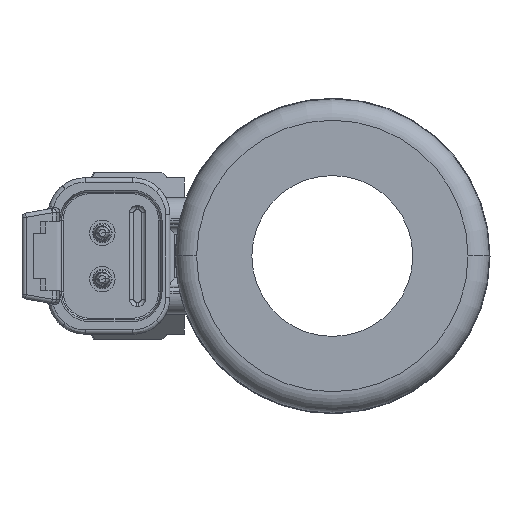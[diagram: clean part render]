
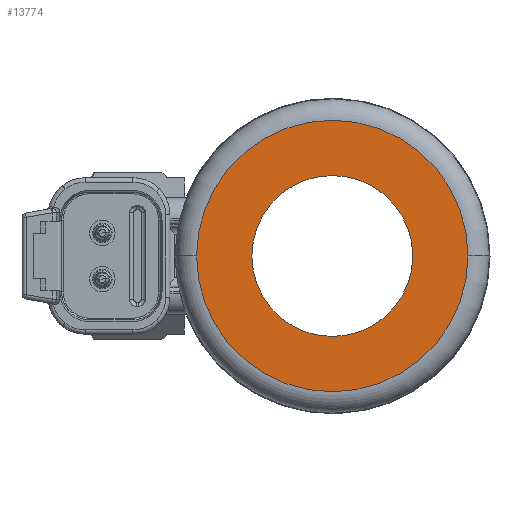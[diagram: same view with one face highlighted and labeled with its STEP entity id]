
A CAD part, left-side view. The second image highlights one B-rep face of the part: STEP entity #13774.
In plain terms, the highlighted planar face has unit normal (-1, 0, 0).
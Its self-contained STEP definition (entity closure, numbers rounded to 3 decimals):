
#606 = EDGE_CURVE ( 'NONE', #1556, #9692, #20590, .T. ) ;
#872 = DIRECTION ( 'NONE',  ( 0., 1., 0. ) ) ;
#883 = FACE_BOUND ( 'NONE', #14947, .T. ) ;
#887 = DIRECTION ( 'NONE',  ( 1., 0., 0. ) ) ;
#914 = CARTESIAN_POINT ( 'NONE',  ( -50.1, 0., 0. ) ) ;
#990 = AXIS2_PLACEMENT_3D ( 'NONE', #13143, #22335, #21376 ) ;
#1465 = FACE_OUTER_BOUND ( 'NONE', #15757, .T. ) ;
#1556 = VERTEX_POINT ( 'NONE', #15354 ) ;
#2187 = ORIENTED_EDGE ( 'NONE', *, *, #6227, .F. ) ;
#2421 = CARTESIAN_POINT ( 'NONE',  ( -50.1, -16.05, 0. ) ) ;
#3147 = EDGE_CURVE ( 'NONE', #9692, #1556, #4809, .T. ) ;
#3283 = PLANE ( 'NONE',  #18286 ) ;
#4809 = CIRCLE ( 'NONE', #19023, 9.515 ) ;
#5066 = CIRCLE ( 'NONE', #12835, 16.05 ) ;
#5798 = ORIENTED_EDGE ( 'NONE', *, *, #9639, .F. ) ;
#5841 = ORIENTED_EDGE ( 'NONE', *, *, #3147, .T. ) ;
#5942 = ORIENTED_EDGE ( 'NONE', *, *, #606, .T. ) ;
#6227 = EDGE_CURVE ( 'NONE', #16503, #15852, #5066, .T. ) ;
#7405 = CARTESIAN_POINT ( 'NONE',  ( -50.1, 16.05, 0. ) ) ;
#7591 = CIRCLE ( 'NONE', #9150, 16.05 ) ;
#8124 = CARTESIAN_POINT ( 'NONE',  ( -50.1, -9.515, 0. ) ) ;
#9150 = AXIS2_PLACEMENT_3D ( 'NONE', #9257, #9375, #9823 ) ;
#9257 = CARTESIAN_POINT ( 'NONE',  ( -50.1, 0., 0. ) ) ;
#9375 = DIRECTION ( 'NONE',  ( 1., 0., 0. ) ) ;
#9639 = EDGE_CURVE ( 'NONE', #15852, #16503, #7591, .T. ) ;
#9692 = VERTEX_POINT ( 'NONE', #8124 ) ;
#9823 = DIRECTION ( 'NONE',  ( 0., 1., 0. ) ) ;
#12835 = AXIS2_PLACEMENT_3D ( 'NONE', #13813, #13447, #13341 ) ;
#13143 = CARTESIAN_POINT ( 'NONE',  ( -50.1, 0., 0. ) ) ;
#13341 = DIRECTION ( 'NONE',  ( 0., 1., 0. ) ) ;
#13447 = DIRECTION ( 'NONE',  ( 1., 0., 0. ) ) ;
#13774 = ADVANCED_FACE ( 'NONE', ( #883, #1465 ), #3283, .F. ) ;
#13813 = CARTESIAN_POINT ( 'NONE',  ( -50.1, 0., 0. ) ) ;
#14947 = EDGE_LOOP ( 'NONE', ( #5942, #5841 ) ) ;
#15354 = CARTESIAN_POINT ( 'NONE',  ( -50.1, 9.515, 0. ) ) ;
#15757 = EDGE_LOOP ( 'NONE', ( #5798, #2187 ) ) ;
#15852 = VERTEX_POINT ( 'NONE', #7405 ) ;
#16503 = VERTEX_POINT ( 'NONE', #2421 ) ;
#17391 = DIRECTION ( 'NONE',  ( 0., 1., 0. ) ) ;
#18286 = AXIS2_PLACEMENT_3D ( 'NONE', #18647, #19386, #17391 ) ;
#18647 = CARTESIAN_POINT ( 'NONE',  ( -50.1, -14.038, 0. ) ) ;
#19023 = AXIS2_PLACEMENT_3D ( 'NONE', #914, #887, #872 ) ;
#19386 = DIRECTION ( 'NONE',  ( 1., 0., 0. ) ) ;
#20590 = CIRCLE ( 'NONE', #990, 9.515 ) ;
#21376 = DIRECTION ( 'NONE',  ( 0., 1., 0. ) ) ;
#22335 = DIRECTION ( 'NONE',  ( 1., 0., 0. ) ) ;
